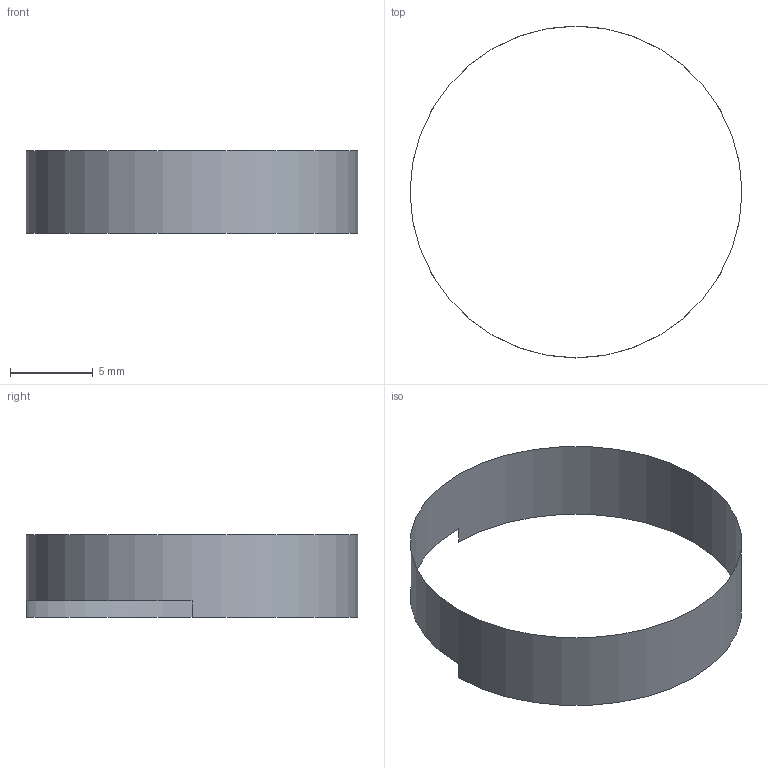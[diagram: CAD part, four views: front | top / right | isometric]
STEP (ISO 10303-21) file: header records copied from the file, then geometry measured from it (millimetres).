
FILE_DESCRIPTION(('BRL-CAD AP214 notched periodic band fixture'),'2;1');
FILE_NAME('ap214_notched_periodic_band.stp','2026-07-20T00:00:00',('BRL-CAD'),('BRL-CAD'),'','','');
FILE_SCHEMA(('AUTOMOTIVE_DESIGN { 1 0 10303 214 3 1 1 1 }'));
Length unit declared in the file: millimetre
Products named in the file (1): notched_periodic_band
Bounding box: 20 x 20 x 5 mm (x, y, z)
Surface area: 298.5 mm2 (no closed solid volume)
Topology: 0 solids, 1 shells, 1 faces, 7 edges, 6 vertices
Faces by surface type: cylinder 1
Full cylindrical faces by diameter (mm): 20 x1
Entity records: 60 total; most frequent: CARTESIAN_POINT 9, VERTEX_POINT 6, EDGE_CURVE 6, ORIENTED_EDGE 6, DIRECTION 3, AXIS2_PLACEMENT_3D 3, CIRCLE 3, VECTOR 2
